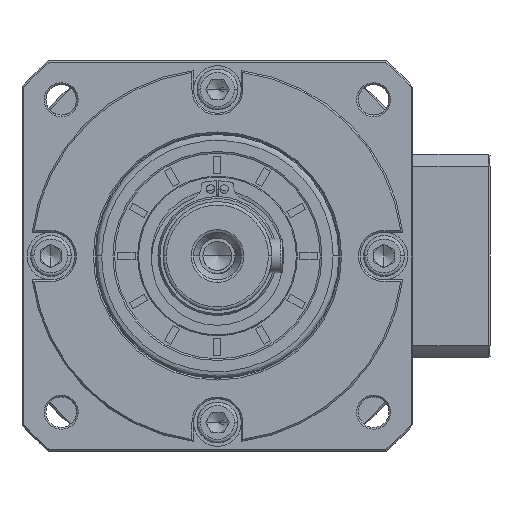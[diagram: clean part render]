
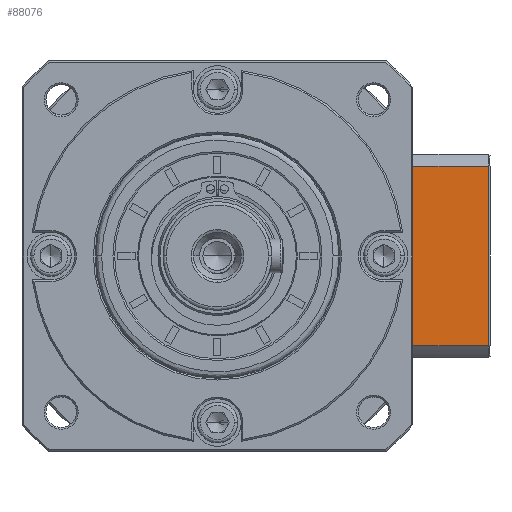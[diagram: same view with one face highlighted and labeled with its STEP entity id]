
A CAD part, left-side view. The second image highlights one B-rep face of the part: STEP entity #88076.
In plain terms, the highlighted planar face has unit normal (-1, 0, 0).
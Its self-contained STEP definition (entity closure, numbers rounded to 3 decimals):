
#2374 = EDGE_CURVE ( 'NONE', #154173, #73819, #24354, .T. ) ;
#4915 = DIRECTION ( 'NONE',  ( 0., 0., -1. ) ) ;
#5064 = CARTESIAN_POINT ( 'NONE',  ( 16.898, -78.892, -153.12 ) ) ;
#5682 = DIRECTION ( 'NONE',  ( 0., 1., 0. ) ) ;
#7713 = EDGE_CURVE ( 'NONE', #104755, #106483, #86135, .T. ) ;
#8073 = VERTEX_POINT ( 'NONE', #69367 ) ;
#9522 = DIRECTION ( 'NONE',  ( 0., 1., 0. ) ) ;
#9894 = CARTESIAN_POINT ( 'NONE',  ( 16.898, -106.092, -108.635 ) ) ;
#9970 = B_SPLINE_CURVE_WITH_KNOTS ( 'NONE', 3,
 ( #25535, #123484, #39604, #137591, #53710, #151662 ),
 .UNSPECIFIED., .F., .F.,
 ( 4, 2, 4 ),
 ( 0.1, 0.104, 0.109 ),
 .UNSPECIFIED. ) ;
#10733 = EDGE_CURVE ( 'NONE', #8073, #26365, #75919, .T. ) ;
#14737 = VERTEX_POINT ( 'NONE', #56874 ) ;
#24320 = CARTESIAN_POINT ( 'NONE',  ( 16.898, -64.392, -153.12 ) ) ;
#24354 = LINE ( 'NONE', #106434, #98826 ) ;
#24947 = CARTESIAN_POINT ( 'NONE',  ( 16.898, -78.892, -108.635 ) ) ;
#25535 = CARTESIAN_POINT ( 'NONE',  ( 16.898, -78.892, -153.12 ) ) ;
#26365 = VERTEX_POINT ( 'NONE', #145428 ) ;
#28451 = LINE ( 'NONE', #24947, #173064 ) ;
#28801 = ORIENTED_EDGE ( 'NONE', *, *, #7713, .T. ) ;
#33171 = ORIENTED_EDGE ( 'NONE', *, *, #175054, .F. ) ;
#35293 = DIRECTION ( 'NONE',  ( 0., 1., 0. ) ) ;
#35987 = DIRECTION ( 'NONE',  ( 0., 0., 1. ) ) ;
#39028 = DIRECTION ( 'NONE',  ( 0., -1., 0. ) ) ;
#39604 = CARTESIAN_POINT ( 'NONE',  ( 16.898, -80.442, -156.002 ) ) ;
#43479 = CARTESIAN_POINT ( 'NONE',  ( 16.898, -83.892, -108.635 ) ) ;
#48115 = FACE_OUTER_BOUND ( 'NONE', #98535, .T. ) ;
#48970 = VECTOR ( 'NONE', #4915, 1000. ) ;
#50648 = VECTOR ( 'NONE', #5682, 1000. ) ;
#53497 = EDGE_CURVE ( 'NONE', #68245, #14737, #9970, .T. ) ;
#53710 = CARTESIAN_POINT ( 'NONE',  ( 16.898, -82.99, -160.187 ) ) ;
#54496 = EDGE_CURVE ( 'NONE', #154173, #14737, #94394, .T. ) ;
#55027 = LINE ( 'NONE', #5064, #50648 ) ;
#56116 = CARTESIAN_POINT ( 'NONE',  ( 16.898, -78.892, -153.12 ) ) ;
#56874 = CARTESIAN_POINT ( 'NONE',  ( 16.898, -83.892, -161.55 ) ) ;
#57585 = CARTESIAN_POINT ( 'NONE',  ( 16.898, -82.992, -109.995 ) ) ;
#61439 = LINE ( 'NONE', #103553, #168701 ) ;
#65854 = ORIENTED_EDGE ( 'NONE', *, *, #2374, .T. ) ;
#68245 = VERTEX_POINT ( 'NONE', #56116 ) ;
#68871 = ORIENTED_EDGE ( 'NONE', *, *, #53497, .T. ) ;
#69367 = CARTESIAN_POINT ( 'NONE',  ( 16.898, -83.892, -108.635 ) ) ;
#71643 = CARTESIAN_POINT ( 'NONE',  ( 16.898, -80.443, -114.181 ) ) ;
#71995 = ORIENTED_EDGE ( 'NONE', *, *, #54496, .F. ) ;
#73819 = VERTEX_POINT ( 'NONE', #9894 ) ;
#75919 = B_SPLINE_CURVE_WITH_KNOTS ( 'NONE', 3,
 ( #43479, #57585, #155547, #71643, #169561, #85660 ),
 .UNSPECIFIED., .F., .F.,
 ( 4, 2, 4 ),
 ( 0.052, 0.057, 0.062 ),
 .UNSPECIFIED. ) ;
#79076 = EDGE_CURVE ( 'NONE', #8073, #73819, #28451, .T. ) ;
#82781 = ORIENTED_EDGE ( 'NONE', *, *, #79076, .F. ) ;
#85660 = CARTESIAN_POINT ( 'NONE',  ( 16.898, -78.892, -117.065 ) ) ;
#86135 = LINE ( 'NONE', #144527, #48970 ) ;
#88076 = ADVANCED_FACE ( 'NONE', ( #48115 ), #121016, .F. ) ;
#90601 = DIRECTION ( 'NONE',  ( 0., -1., 0. ) ) ;
#93423 = DIRECTION ( 'NONE',  ( 1., 0., 0. ) ) ;
#94394 = LINE ( 'NONE', #133307, #131676 ) ;
#98535 = EDGE_LOOP ( 'NONE', ( #71995, #65854, #82781, #155297, #99573, #28801, #33171, #68871 ) ) ;
#98826 = VECTOR ( 'NONE', #35987, 1000. ) ;
#99573 = ORIENTED_EDGE ( 'NONE', *, *, #131200, .F. ) ;
#103553 = CARTESIAN_POINT ( 'NONE',  ( 16.898, -78.892, -117.065 ) ) ;
#104755 = VERTEX_POINT ( 'NONE', #169420 ) ;
#106434 = CARTESIAN_POINT ( 'NONE',  ( 16.898, -106.092, -165.092 ) ) ;
#106483 = VERTEX_POINT ( 'NONE', #24320 ) ;
#121016 = PLANE ( 'NONE',  #156190 ) ;
#123484 = CARTESIAN_POINT ( 'NONE',  ( 16.898, -79.642, -154.577 ) ) ;
#123682 = CARTESIAN_POINT ( 'NONE',  ( 16.898, -106.092, -161.55 ) ) ;
#131200 = EDGE_CURVE ( 'NONE', #104755, #26365, #61439, .T. ) ;
#131676 = VECTOR ( 'NONE', #35293, 1000. ) ;
#133307 = CARTESIAN_POINT ( 'NONE',  ( 16.898, -78.892, -161.55 ) ) ;
#137591 = CARTESIAN_POINT ( 'NONE',  ( 16.898, -82.116, -158.807 ) ) ;
#144527 = CARTESIAN_POINT ( 'NONE',  ( 16.898, -64.392, -165.092 ) ) ;
#145428 = CARTESIAN_POINT ( 'NONE',  ( 16.898, -78.892, -117.065 ) ) ;
#151662 = CARTESIAN_POINT ( 'NONE',  ( 16.898, -83.892, -161.55 ) ) ;
#154173 = VERTEX_POINT ( 'NONE', #123682 ) ;
#155297 = ORIENTED_EDGE ( 'NONE', *, *, #10733, .T. ) ;
#155547 = CARTESIAN_POINT ( 'NONE',  ( 16.898, -82.119, -111.373 ) ) ;
#156190 = AXIS2_PLACEMENT_3D ( 'NONE', #177274, #93423, #9522 ) ;
#168701 = VECTOR ( 'NONE', #90601, 1000. ) ;
#169420 = CARTESIAN_POINT ( 'NONE',  ( 16.898, -64.392, -117.065 ) ) ;
#169561 = CARTESIAN_POINT ( 'NONE',  ( 16.898, -79.639, -115.613 ) ) ;
#173064 = VECTOR ( 'NONE', #39028, 1000. ) ;
#175054 = EDGE_CURVE ( 'NONE', #68245, #106483, #55027, .T. ) ;
#177274 = CARTESIAN_POINT ( 'NONE',  ( 16.898, -106.592, -165.092 ) ) ;
